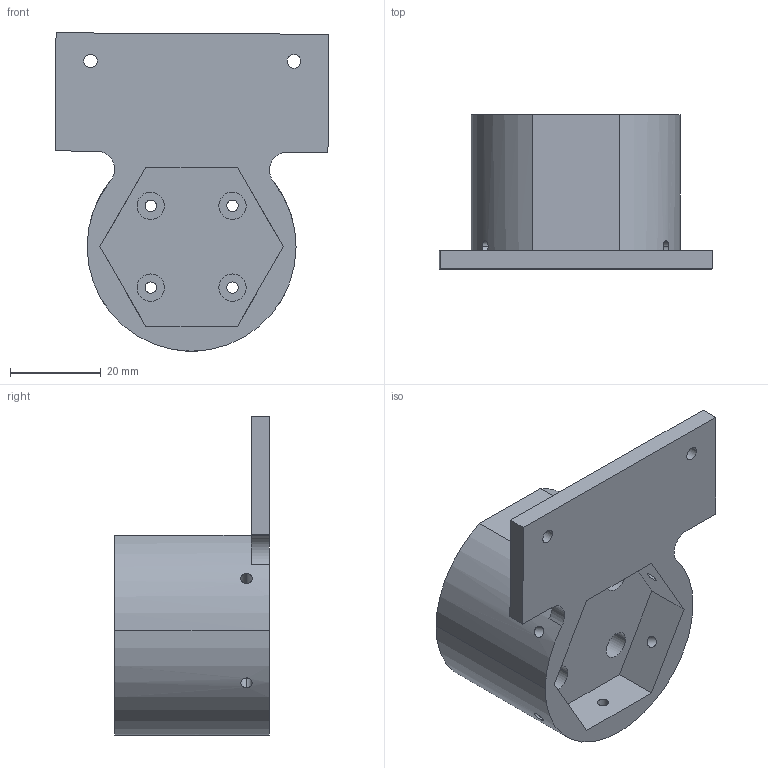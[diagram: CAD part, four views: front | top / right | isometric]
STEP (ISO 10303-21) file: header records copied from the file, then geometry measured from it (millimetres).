
FILE_DESCRIPTION (( 'STEP AP214' ), '1' );
FILE_NAME ('Flange.STEP', '2026-09-16T05:54:06', ( '' ), ( '' ), 'SwSTEP 2.0', 'SolidWorks 2024', '' );
FILE_SCHEMA (( 'AUTOMOTIVE_DESIGN' ));
Length unit declared in the file: millimetre
Products named in the file (2): 灵巧手侧法兰; Flange
Assembly tree (1 placements, depth 2):
  Flange
    灵巧手侧法兰
Bounding box: 60.14 x 34 x 70.09 mm (x, y, z)
Volume: 48868.6 mm3; surface area: 14818.6 mm2
Topology: 1 solids, 1 shells, 56 faces, 147 edges, 98 vertices
Faces by surface type: cylinder 36, plane 20
Entity records: 2024 total; most frequent: CARTESIAN_POINT 495, DIRECTION 321, ORIENTED_EDGE 294, EDGE_CURVE 147, AXIS2_PLACEMENT_3D 124, VERTEX_POINT 98, EDGE_LOOP 83, LINE 73
